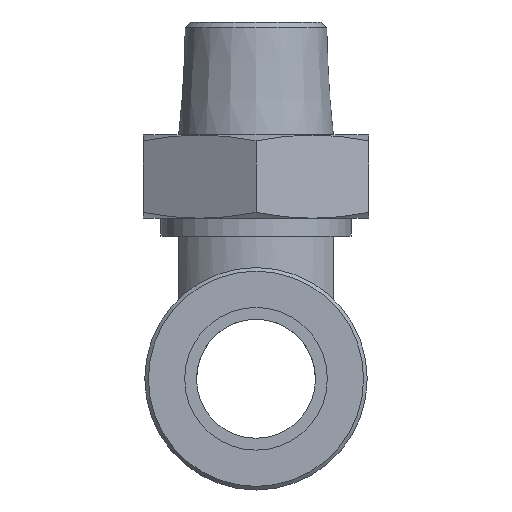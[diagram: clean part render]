
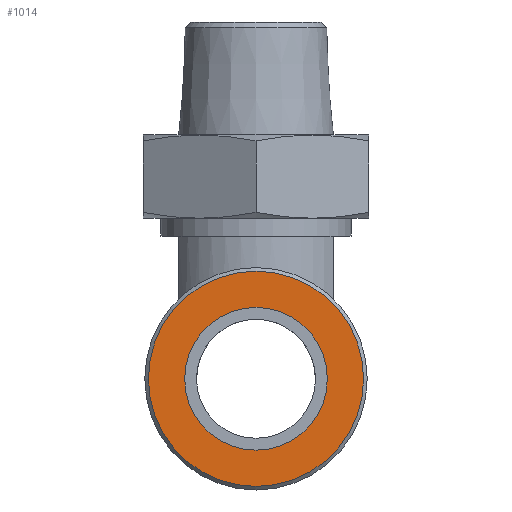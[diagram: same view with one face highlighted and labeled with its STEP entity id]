
A CAD part, front view. The second image highlights one B-rep face of the part: STEP entity #1014.
In plain terms, the highlighted planar face has unit normal (0, -1, 0).
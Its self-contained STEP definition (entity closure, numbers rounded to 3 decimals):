
#47=FACE_BOUND('',#222,.T.);
#73=PLANE('',#1154);
#147=FACE_OUTER_BOUND('',#221,.T.);
#221=EDGE_LOOP('',(#866));
#222=EDGE_LOOP('',(#867));
#374=CIRCLE('',#1103,6.);
#396=CIRCLE('',#1151,9.05);
#455=VERTEX_POINT('',#1690);
#487=VERTEX_POINT('',#1798);
#566=EDGE_CURVE('',#455,#455,#374,.T.);
#619=EDGE_CURVE('',#487,#487,#396,.T.);
#866=ORIENTED_EDGE('',*,*,#619,.F.);
#867=ORIENTED_EDGE('',*,*,#566,.T.);
#1014=ADVANCED_FACE('',(#147,#47),#73,.F.);
#1103=AXIS2_PLACEMENT_3D('',#1691,#1300,#1301);
#1151=AXIS2_PLACEMENT_3D('',#1800,#1425,#1426);
#1154=AXIS2_PLACEMENT_3D('',#1805,#1432,#1433);
#1300=DIRECTION('center_axis',(0.,1.,0.));
#1301=DIRECTION('ref_axis',(1.,0.,0.));
#1425=DIRECTION('center_axis',(0.,1.,0.));
#1426=DIRECTION('ref_axis',(-1.,0.,0.));
#1432=DIRECTION('center_axis',(0.,1.,0.));
#1433=DIRECTION('ref_axis',(0.,0.,1.));
#1690=CARTESIAN_POINT('',(-6.,-28.5,0.));
#1691=CARTESIAN_POINT('Origin',(0.,-28.5,0.));
#1798=CARTESIAN_POINT('',(9.05,-28.5,0.));
#1800=CARTESIAN_POINT('Origin',(0.,-28.5,0.));
#1805=CARTESIAN_POINT('Origin',(0.,-28.5,0.));
